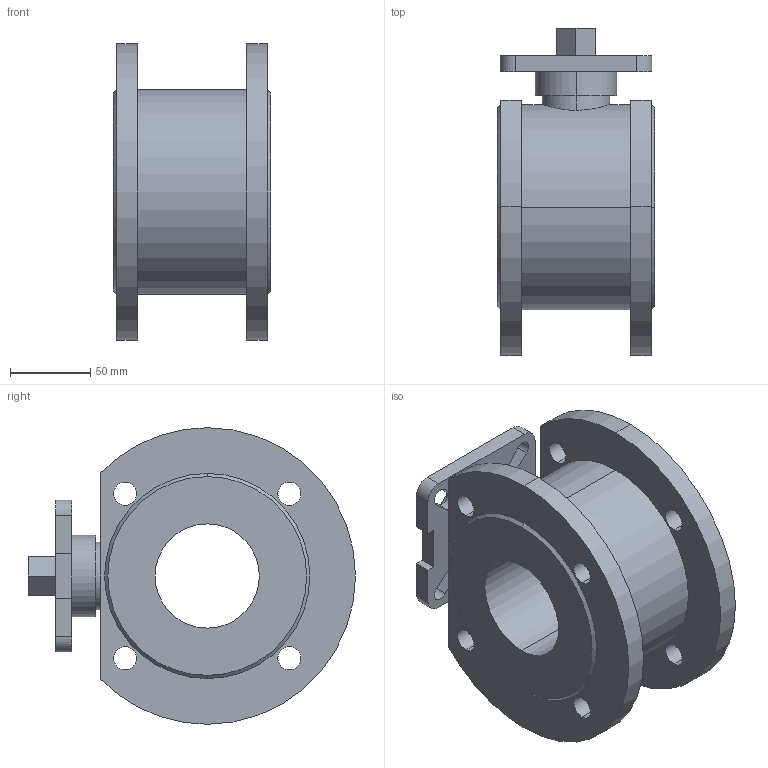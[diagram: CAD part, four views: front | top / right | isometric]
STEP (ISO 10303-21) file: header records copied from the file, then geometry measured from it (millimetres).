
FILE_DESCRIPTION (( 'STEP AP203' ), '1' );
FILE_NAME ('01.622I065016CP.STEP', '2018-10-23T08:25:58', ( '' ), ( '' ), 'SwSTEP 2.0', 'SolidWorks 2014', '' );
FILE_SCHEMA (( 'CONFIG_CONTROL_DESIGN' ));
Length unit declared in the file: millimetre
Products named in the file (1): 01.622I065016CP
Bounding box: 98 x 204 x 185 mm (x, y, z)
Volume: 1342387.1 mm3; surface area: 154130.5 mm2
Topology: 1 solids, 1 shells, 86 faces, 228 edges, 152 vertices
Faces by surface type: cylinder 46, plane 36, cone 4
Entity records: 2949 total; most frequent: CARTESIAN_POINT 581, DIRECTION 498, ORIENTED_EDGE 456, EDGE_CURVE 228, AXIS2_PLACEMENT_3D 185, VERTEX_POINT 152, VECTOR 128, LINE 128
